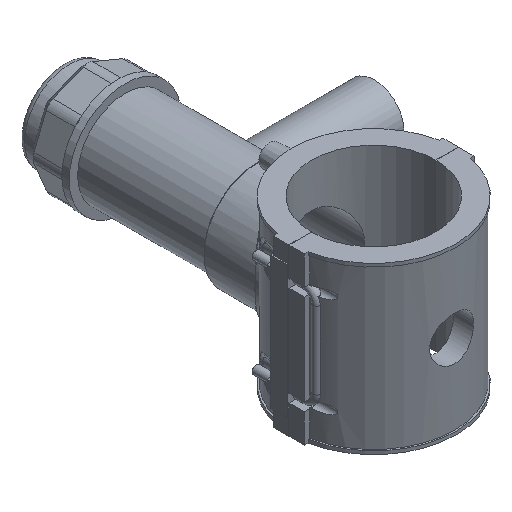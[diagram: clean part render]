
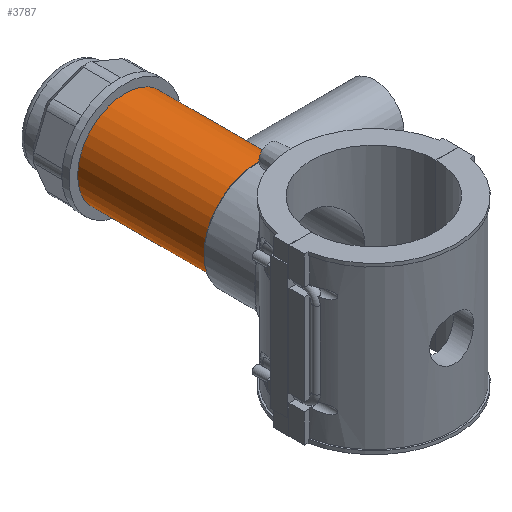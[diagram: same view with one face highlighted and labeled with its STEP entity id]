
A CAD part, isometric view. The second image highlights one B-rep face of the part: STEP entity #3787.
In plain terms, the highlighted cylindrical face has radius 33.928 mm (diameter 67.856 mm), a full revolution.
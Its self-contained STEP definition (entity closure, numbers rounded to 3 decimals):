
#53=FACE_BOUND('',#560,.T.);
#82=B_SPLINE_CURVE_WITH_KNOTS('',3,(#5611,#5612,#5613,#5614,#5615,#5616,
#5617,#5618,#5619,#5620,#5621,#5622,#5623,#5624,#5625,#5626,#5627,#5628),
 .UNSPECIFIED.,.F.,.F.,(4,2,2,2,2,2,2,2,4),(0.,0.412,0.823,
1.235,1.647,2.055,2.464,2.872,
3.281),.UNSPECIFIED.);
#83=B_SPLINE_CURVE_WITH_KNOTS('',3,(#5629,#5630,#5631,#5632,#5633,#5634,
#5635,#5636,#5637,#5638,#5639,#5640,#5641,#5642,#5643,#5644,#5645,#5646,
#5647,#5648,#5649,#5650,#5651,#5652,#5653,#5654,#5655,#5656,#5657,#5658,
#5659,#5660,#5661,#5662,#5663,#5664,#5665,#5666,#5667,#5668,#5669,#5670,
#5671,#5672,#5673,#5674,#5675,#5676,#5677,#5678),.UNSPECIFIED.,.F.,.F.,
(4,2,2,2,2,2,2,2,2,2,2,2,2,2,2,2,2,2,2,2,2,2,2,2,4),(3.281,3.69,
4.098,4.507,4.915,5.327,5.739,
6.15,6.562,6.974,7.385,7.797,
8.209,8.617,9.026,9.434,9.843,
10.251,10.66,11.069,11.477,11.889,
12.3,12.712,13.124),.UNSPECIFIED.);
#344=FACE_OUTER_BOUND('',#559,.T.);
#559=EDGE_LOOP('',(#2788,#2789,#2790,#2791,#2792,#2793));
#560=EDGE_LOOP('',(#2794,#2795));
#779=CIRCLE('',#4052,33.928);
#780=CIRCLE('',#4053,33.928);
#793=CIRCLE('',#4080,33.928);
#794=CIRCLE('',#4081,33.928);
#956=LINE('',#5928,#1297);
#1297=VECTOR('',#4630,33.928);
#1582=VERTEX_POINT('',#5608);
#1583=VERTEX_POINT('',#5610);
#1645=VERTEX_POINT('',#5869);
#1646=VERTEX_POINT('',#5870);
#1660=VERTEX_POINT('',#5924);
#1661=VERTEX_POINT('',#5925);
#1960=EDGE_CURVE('',#1583,#1582,#82,.T.);
#1961=EDGE_CURVE('',#1582,#1583,#83,.T.);
#2056=EDGE_CURVE('',#1645,#1646,#779,.T.);
#2057=EDGE_CURVE('',#1646,#1645,#780,.T.);
#2082=EDGE_CURVE('',#1660,#1661,#793,.T.);
#2083=EDGE_CURVE('',#1661,#1660,#794,.T.);
#2084=EDGE_CURVE('',#1661,#1646,#956,.T.);
#2788=ORIENTED_EDGE('',*,*,#2082,.F.);
#2789=ORIENTED_EDGE('',*,*,#2083,.F.);
#2790=ORIENTED_EDGE('',*,*,#2084,.T.);
#2791=ORIENTED_EDGE('',*,*,#2057,.T.);
#2792=ORIENTED_EDGE('',*,*,#2056,.T.);
#2793=ORIENTED_EDGE('',*,*,#2084,.F.);
#2794=ORIENTED_EDGE('',*,*,#1960,.T.);
#2795=ORIENTED_EDGE('',*,*,#1961,.T.);
#3691=CYLINDRICAL_SURFACE('',#4079,33.928);
#3787=ADVANCED_FACE('',(#344,#53),#3691,.T.);
#4052=AXIS2_PLACEMENT_3D('',#5871,#4558,#4559);
#4053=AXIS2_PLACEMENT_3D('',#5872,#4560,#4561);
#4079=AXIS2_PLACEMENT_3D('',#5923,#4624,#4625);
#4080=AXIS2_PLACEMENT_3D('',#5926,#4626,#4627);
#4081=AXIS2_PLACEMENT_3D('',#5927,#4628,#4629);
#4558=DIRECTION('center_axis',(0.,1.,0.));
#4559=DIRECTION('ref_axis',(1.,0.,0.));
#4560=DIRECTION('center_axis',(0.,1.,0.));
#4561=DIRECTION('ref_axis',(1.,0.,0.));
#4624=DIRECTION('center_axis',(0.,1.,0.));
#4625=DIRECTION('ref_axis',(0.,0.,1.));
#4626=DIRECTION('center_axis',(0.,1.,0.));
#4627=DIRECTION('ref_axis',(1.,0.,0.));
#4628=DIRECTION('center_axis',(0.,1.,0.));
#4629=DIRECTION('ref_axis',(1.,0.,0.));
#4630=DIRECTION('',(0.,-1.,0.));
#5608=CARTESIAN_POINT('',(33.928,88.324,0.));
#5610=CARTESIAN_POINT('',(26.608,109.374,-21.05));
#5611=CARTESIAN_POINT('Ctrl Pts',(26.608,109.374,-21.05));
#5612=CARTESIAN_POINT('Ctrl Pts',(26.608,108.002,-21.05));
#5613=CARTESIAN_POINT('Ctrl Pts',(26.717,106.602,-20.914));
#5614=CARTESIAN_POINT('Ctrl Pts',(27.141,103.85,-20.361));
#5615=CARTESIAN_POINT('Ctrl Pts',(27.455,102.498,-19.944));
#5616=CARTESIAN_POINT('Ctrl Pts',(28.209,99.924,-18.861));
#5617=CARTESIAN_POINT('Ctrl Pts',(28.651,98.7,-18.194));
#5618=CARTESIAN_POINT('Ctrl Pts',(29.566,96.441,-16.665));
#5619=CARTESIAN_POINT('Ctrl Pts',(30.041,95.407,-15.802));
#5620=CARTESIAN_POINT('Ctrl Pts',(30.933,93.579,-13.974));
#5621=CARTESIAN_POINT('Ctrl Pts',(31.385,92.718,-12.943));
#5622=CARTESIAN_POINT('Ctrl Pts',(32.224,91.185,-10.684));
#5623=CARTESIAN_POINT('Ctrl Pts',(32.611,90.515,-9.455));
#5624=CARTESIAN_POINT('Ctrl Pts',(33.251,89.428,-6.871));
#5625=CARTESIAN_POINT('Ctrl Pts',(33.506,89.01,-5.513));
#5626=CARTESIAN_POINT('Ctrl Pts',(33.844,88.458,-2.758));
#5627=CARTESIAN_POINT('Ctrl Pts',(33.928,88.324,-1.362));
#5628=CARTESIAN_POINT('Ctrl Pts',(33.928,88.324,0.));
#5629=CARTESIAN_POINT('Ctrl Pts',(33.928,88.324,0.));
#5630=CARTESIAN_POINT('Ctrl Pts',(33.928,88.324,1.362));
#5631=CARTESIAN_POINT('Ctrl Pts',(33.844,88.458,2.758));
#5632=CARTESIAN_POINT('Ctrl Pts',(33.506,89.01,5.513));
#5633=CARTESIAN_POINT('Ctrl Pts',(33.251,89.428,6.871));
#5634=CARTESIAN_POINT('Ctrl Pts',(32.611,90.515,9.455));
#5635=CARTESIAN_POINT('Ctrl Pts',(32.224,91.185,10.684));
#5636=CARTESIAN_POINT('Ctrl Pts',(31.385,92.718,12.943));
#5637=CARTESIAN_POINT('Ctrl Pts',(30.933,93.579,13.974));
#5638=CARTESIAN_POINT('Ctrl Pts',(30.041,95.407,15.802));
#5639=CARTESIAN_POINT('Ctrl Pts',(29.566,96.441,16.665));
#5640=CARTESIAN_POINT('Ctrl Pts',(28.651,98.7,18.194));
#5641=CARTESIAN_POINT('Ctrl Pts',(28.209,99.924,18.861));
#5642=CARTESIAN_POINT('Ctrl Pts',(27.455,102.498,19.944));
#5643=CARTESIAN_POINT('Ctrl Pts',(27.141,103.85,20.361));
#5644=CARTESIAN_POINT('Ctrl Pts',(26.717,106.602,20.914));
#5645=CARTESIAN_POINT('Ctrl Pts',(26.608,108.002,21.05));
#5646=CARTESIAN_POINT('Ctrl Pts',(26.608,110.746,21.05));
#5647=CARTESIAN_POINT('Ctrl Pts',(26.717,112.146,20.914));
#5648=CARTESIAN_POINT('Ctrl Pts',(27.141,114.898,20.361));
#5649=CARTESIAN_POINT('Ctrl Pts',(27.455,116.25,19.944));
#5650=CARTESIAN_POINT('Ctrl Pts',(28.209,118.824,18.861));
#5651=CARTESIAN_POINT('Ctrl Pts',(28.651,120.048,18.194));
#5652=CARTESIAN_POINT('Ctrl Pts',(29.566,122.307,16.665));
#5653=CARTESIAN_POINT('Ctrl Pts',(30.041,123.341,15.802));
#5654=CARTESIAN_POINT('Ctrl Pts',(30.933,125.169,13.974));
#5655=CARTESIAN_POINT('Ctrl Pts',(31.385,126.03,12.943));
#5656=CARTESIAN_POINT('Ctrl Pts',(32.224,127.563,10.684));
#5657=CARTESIAN_POINT('Ctrl Pts',(32.611,128.233,9.455));
#5658=CARTESIAN_POINT('Ctrl Pts',(33.251,129.32,6.871));
#5659=CARTESIAN_POINT('Ctrl Pts',(33.506,129.738,5.513));
#5660=CARTESIAN_POINT('Ctrl Pts',(33.844,130.29,2.758));
#5661=CARTESIAN_POINT('Ctrl Pts',(33.928,130.424,1.362));
#5662=CARTESIAN_POINT('Ctrl Pts',(33.928,130.424,-1.362));
#5663=CARTESIAN_POINT('Ctrl Pts',(33.844,130.29,-2.758));
#5664=CARTESIAN_POINT('Ctrl Pts',(33.506,129.738,-5.513));
#5665=CARTESIAN_POINT('Ctrl Pts',(33.251,129.32,-6.871));
#5666=CARTESIAN_POINT('Ctrl Pts',(32.611,128.233,-9.455));
#5667=CARTESIAN_POINT('Ctrl Pts',(32.224,127.563,-10.684));
#5668=CARTESIAN_POINT('Ctrl Pts',(31.385,126.03,-12.943));
#5669=CARTESIAN_POINT('Ctrl Pts',(30.933,125.169,-13.974));
#5670=CARTESIAN_POINT('Ctrl Pts',(30.041,123.341,-15.802));
#5671=CARTESIAN_POINT('Ctrl Pts',(29.566,122.307,-16.665));
#5672=CARTESIAN_POINT('Ctrl Pts',(28.651,120.048,-18.194));
#5673=CARTESIAN_POINT('Ctrl Pts',(28.209,118.824,-18.861));
#5674=CARTESIAN_POINT('Ctrl Pts',(27.455,116.25,-19.944));
#5675=CARTESIAN_POINT('Ctrl Pts',(27.141,114.898,-20.361));
#5676=CARTESIAN_POINT('Ctrl Pts',(26.717,112.146,-20.914));
#5677=CARTESIAN_POINT('Ctrl Pts',(26.608,110.746,-21.05));
#5678=CARTESIAN_POINT('Ctrl Pts',(26.608,109.374,-21.05));
#5869=CARTESIAN_POINT('',(0.,83.927,33.928));
#5870=CARTESIAN_POINT('',(0.,83.927,-33.928));
#5871=CARTESIAN_POINT('Origin',(0.,83.927,0.));
#5872=CARTESIAN_POINT('Origin',(0.,83.927,0.));
#5923=CARTESIAN_POINT('Origin',(0.,130.528,0.));
#5924=CARTESIAN_POINT('',(0.,177.129,33.928));
#5925=CARTESIAN_POINT('',(0.,177.129,-33.928));
#5926=CARTESIAN_POINT('Origin',(0.,177.129,0.));
#5927=CARTESIAN_POINT('Origin',(0.,177.129,0.));
#5928=CARTESIAN_POINT('',(0.,130.528,-33.928));
